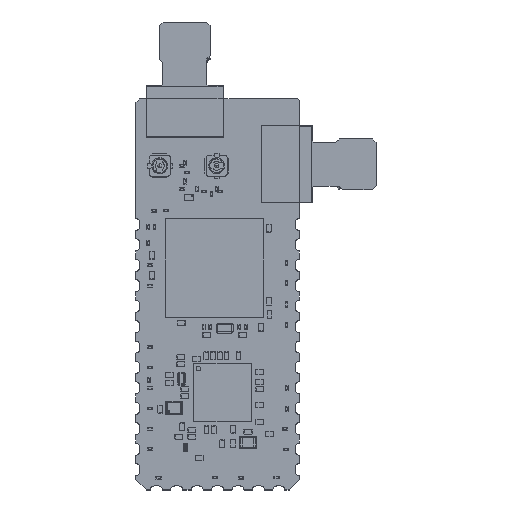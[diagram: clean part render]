
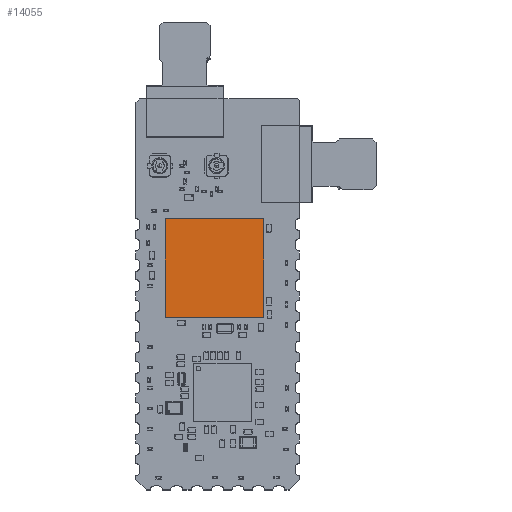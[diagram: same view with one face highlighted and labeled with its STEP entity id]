
A CAD part, top view. The second image highlights one B-rep face of the part: STEP entity #14055.
In plain terms, the highlighted planar face has unit normal (0, 0, 1).
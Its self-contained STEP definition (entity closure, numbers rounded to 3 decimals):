
#13926 = VERTEX_POINT('',#13927);
#13927 = CARTESIAN_POINT('',(-6.141,6.139,1.4));
#13933 = EDGE_CURVE('',#13926,#13934,#13936,.T.);
#13934 = VERTEX_POINT('',#13935);
#13935 = CARTESIAN_POINT('',(6.141,6.139,1.4));
#13936 = LINE('',#13937,#13938);
#13937 = CARTESIAN_POINT('',(-6.141,6.139,1.4));
#13938 = VECTOR('',#13939,1.);
#13939 = DIRECTION('',(1.,0.,0.));
#13964 = EDGE_CURVE('',#13934,#13965,#13967,.T.);
#13965 = VERTEX_POINT('',#13966);
#13966 = CARTESIAN_POINT('',(6.141,-6.139,1.4));
#13967 = LINE('',#13968,#13969);
#13968 = CARTESIAN_POINT('',(6.141,6.139,1.4));
#13969 = VECTOR('',#13970,1.);
#13970 = DIRECTION('',(0.,-1.,0.));
#13995 = EDGE_CURVE('',#13965,#13996,#13998,.T.);
#13996 = VERTEX_POINT('',#13997);
#13997 = CARTESIAN_POINT('',(-6.139,-6.139,1.4));
#13998 = LINE('',#13999,#14000);
#13999 = CARTESIAN_POINT('',(6.141,-6.139,1.4));
#14000 = VECTOR('',#14001,1.);
#14001 = DIRECTION('',(-1.,0.,0.));
#14026 = EDGE_CURVE('',#13996,#13926,#14027,.T.);
#14027 = LINE('',#14028,#14029);
#14028 = CARTESIAN_POINT('',(-6.139,-6.139,1.4));
#14029 = VECTOR('',#14030,1.);
#14030 = DIRECTION('',(0.,1.,0.));
#14055 = ADVANCED_FACE('',(#14056),#14062,.F.);
#14056 = FACE_BOUND('',#14057,.F.);
#14057 = EDGE_LOOP('',(#14058,#14059,#14060,#14061));
#14058 = ORIENTED_EDGE('',*,*,#13933,.T.);
#14059 = ORIENTED_EDGE('',*,*,#13964,.T.);
#14060 = ORIENTED_EDGE('',*,*,#13995,.T.);
#14061 = ORIENTED_EDGE('',*,*,#14026,.T.);
#14062 = PLANE('',#14063);
#14063 = AXIS2_PLACEMENT_3D('',#14064,#14065,#14066);
#14064 = CARTESIAN_POINT('',(0.,0.,
    1.4));
#14065 = DIRECTION('',(-0.,-0.,-1.));
#14066 = DIRECTION('',(-1.,0.,0.));
